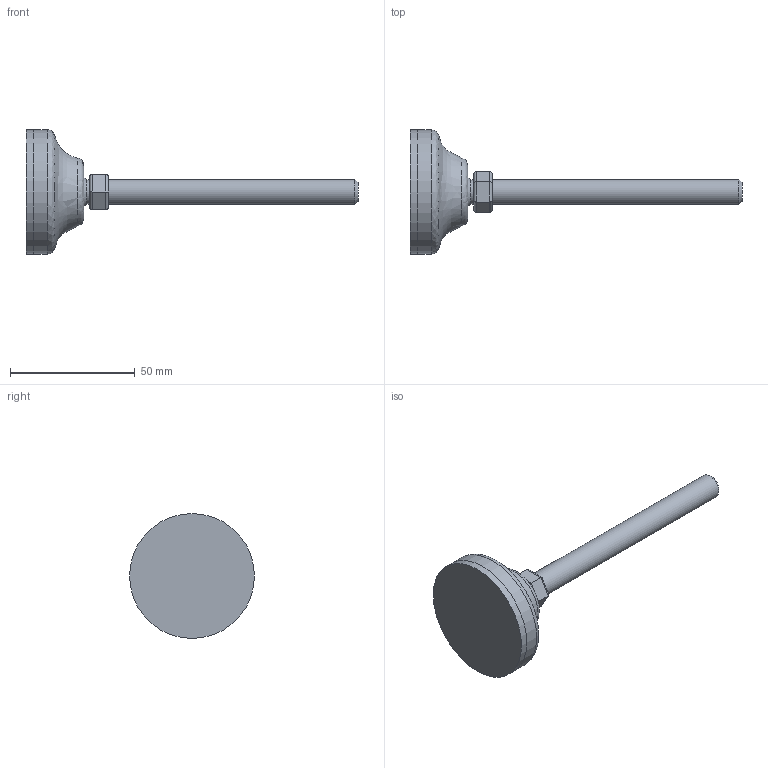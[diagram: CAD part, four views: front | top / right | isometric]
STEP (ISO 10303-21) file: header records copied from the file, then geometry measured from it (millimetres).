
FILE_DESCRIPTION(('STEP AP203'),'2;1');
FILE_NAME('10025.stp','2015-07-01T14:31:46',(''),(''),'2008.1.107','THINKDESIGN','');
FILE_SCHEMA(('CONFIG_CONTROL_DESIGN'));
Length unit declared in the file: millimetre
Bounding box: 133 x 50 x 50 mm (x, y, z)
Volume: 40688.1 mm3; surface area: 14225.5 mm2
Topology: 5 solids, 5 shells, 37 faces, 77 edges, 50 vertices
Faces by surface type: plane 16, cylinder 16, bspline 5
Full cylindrical faces by diameter (mm): 9.747 x1, 10 x1, 50 x2
Entity records: 1298 total; most frequent: CARTESIAN_POINT 431, DIRECTION 159, ORIENTED_EDGE 154, EDGE_CURVE 77, AXIS2_PLACEMENT_3D 62, VERTEX_POINT 50, EDGE_LOOP 37, FACE_OUTER_BOUND 37
